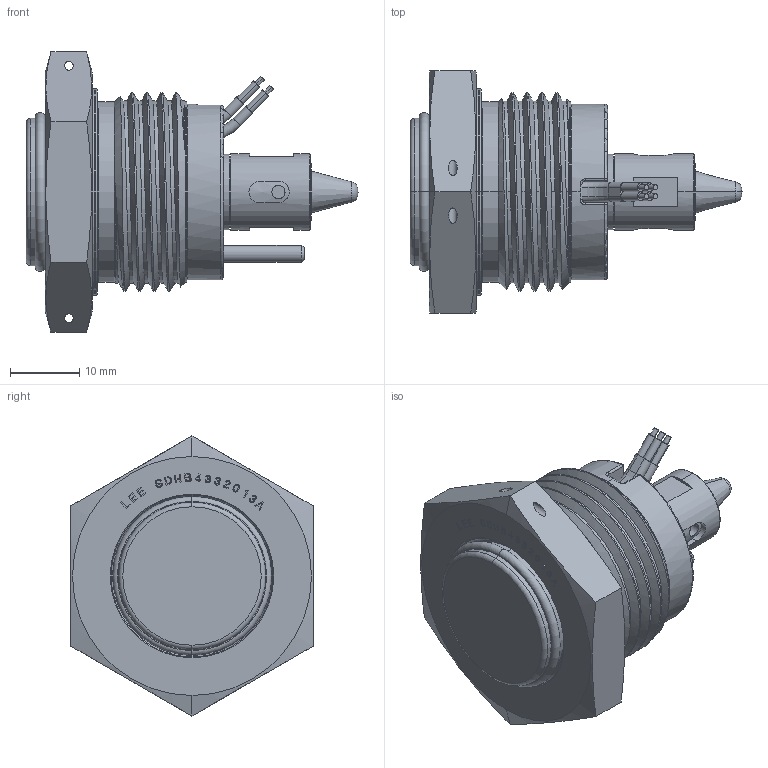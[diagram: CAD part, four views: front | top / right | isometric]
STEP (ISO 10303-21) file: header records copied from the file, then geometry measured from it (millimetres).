
FILE_DESCRIPTION(('Creo Elements/Direct Modeling STEP Export'),'2;1');
FILE_NAME('SDHB4332013A.stp','2021-04-08T 9:55:54',(''),(''),'Creo Elements/Direct Modeling STEP processor for AP214 (Solid Model)','Creo Elements/Direct Modeling 18.1 03-Mar-2012 (C) Parametric Technology GmbH','');
FILE_SCHEMA(('AUTOMOTIVE_DESIGN { 1 0 10303 214 1 1 1 1 }'));
Length unit declared in the file: millimetre
Products named in the file (2): SDHB4332013A
Assembly tree (1 placements, depth 2):
  SDHB4332013A
    SDHB4332013A
Bounding box: 47.8 x 34.92 x 40.33 mm (x, y, z)
Volume: 19768.4 mm3; surface area: 6356.9 mm2
Topology: 1 solids, 1 shells, 786 faces, 2141 edges, 1405 vertices
Faces by surface type: plane 623, cylinder 94, torus 32, cone 27, bspline 8, sphere 2
Entity records: 34141 total; most frequent: CARTESIAN_POINT 13886, ORIENTED_EDGE 4278, DIRECTION 3584, EDGE_CURVE 2139, VECTOR 1788, LINE 1788, VERTEX_POINT 1405, AXIS2_PLACEMENT_3D 898
